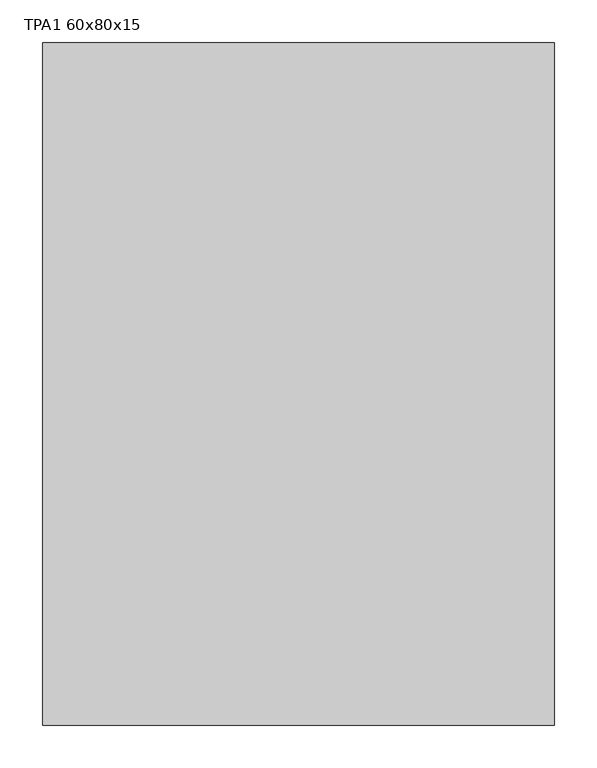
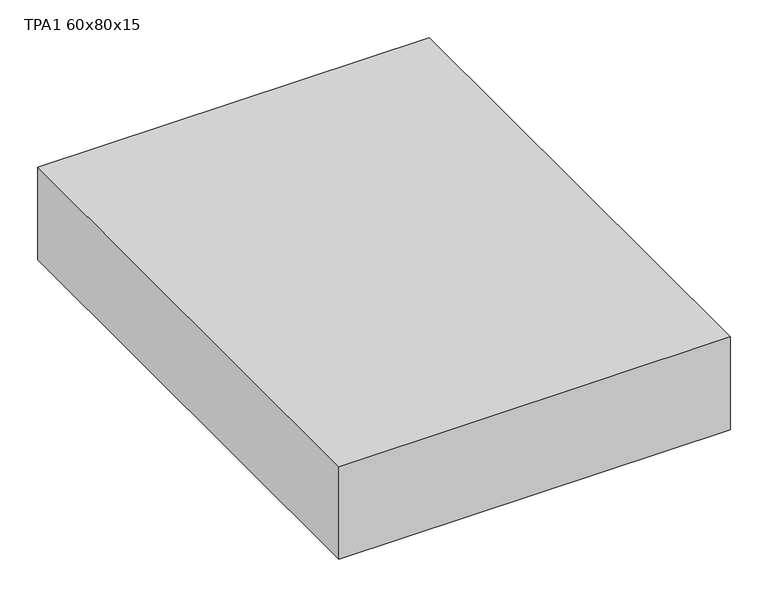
"""IFC4 building model written with IfcOpenShell, lengths in millimetres: proxy geometry, TABLERO ELECTRICO DE SUPERFICIE : TPA1 60x80x15."""

from ifc_helpers import new_model, si_unit, origin, origin_with_axes, place, context, project, spatial, polyline, outline, extrude, source, transform, mapped, element, save


def tpa1_60x80x15_be34f1a7(model_context):
    return source(origin(), model_context, "Body", "SweptSolid", [
        extrude(outline(polyline([(300.0, 0.0), (300.0, -800.0), (-300.0, -800.0), (-300.0, 0.0), (300.0, 0.0)])), origin_with_axes(), (0.0, 0.0, 1.0), 150.0),
    ])


if __name__ == "__main__":
    model = new_model("IFC4")
    model_context = context("Model", 3, world=origin())
    ifc_project = project(units=[si_unit("LENGTHUNIT", "METRE", prefix="MILLI")], contexts=[model_context])
    site = spatial("IfcSite", under=ifc_project)
    building = spatial("IfcBuilding", under=site)
    placement = place(None, origin())
    tpa1_60x80x15_shape = tpa1_60x80x15_be34f1a7(model_context)
    element("IfcBuildingElementProxy", 1, Name="TABLERO ELECTRICO DE SUPERFICIE : TPA1 60x80x15", ObjectType="TABLERO ELECTRICO DE SUPERFICIE : TPA1 60x80x15", at=placement, inside=building, context=model_context, shape_type="MappedRepresentation", body=[
        mapped(tpa1_60x80x15_shape, transform((0.0, 0.0, 0.0), x_axis=(1.0, 0.0, 0.0), y_axis=(0.0, 1.0, 0.0), z_axis=(0.0, 0.0, 1.0))),
    ])
    save(model, "model.ifc")
